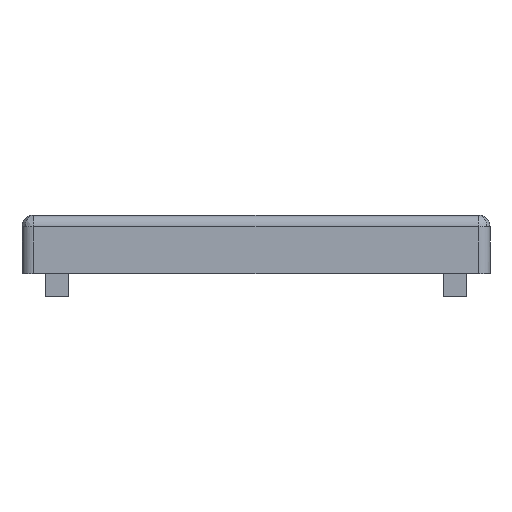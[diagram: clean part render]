
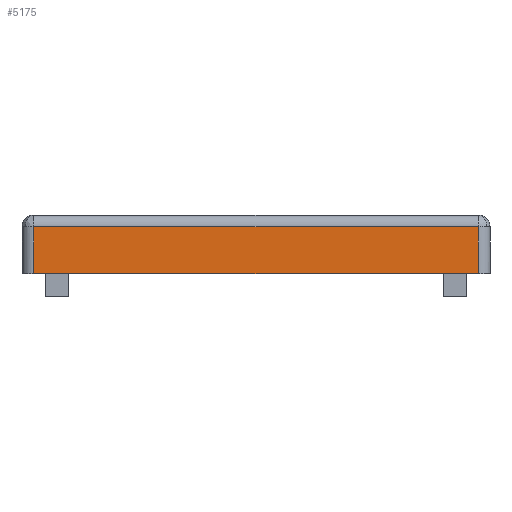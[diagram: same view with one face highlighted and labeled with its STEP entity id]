
A CAD part, front view. The second image highlights one B-rep face of the part: STEP entity #5175.
In plain terms, the highlighted planar face has unit normal (0, -1, 0).
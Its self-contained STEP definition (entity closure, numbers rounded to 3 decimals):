
#381 = ORIENTED_EDGE ( 'NONE', *, *, #5391, .T. ) ;
#507 = DIRECTION ( 'NONE',  ( 1., 0., 0. ) ) ;
#521 = CARTESIAN_POINT ( 'NONE',  ( -19.154, -40., 4. ) ) ;
#547 = DIRECTION ( 'NONE',  ( 0., 0., 1. ) ) ;
#640 = DIRECTION ( 'NONE',  ( 0., 0., -1. ) ) ;
#726 = EDGE_CURVE ( 'NONE', #1241, #2900, #6763, .T. ) ;
#1241 = VERTEX_POINT ( 'NONE', #2305 ) ;
#1350 = LINE ( 'NONE', #521, #5589 ) ;
#1355 = CARTESIAN_POINT ( 'NONE',  ( -19., -40., 4. ) ) ;
#2305 = CARTESIAN_POINT ( 'NONE',  ( -19., -40., 0. ) ) ;
#2403 = VERTEX_POINT ( 'NONE', #1355 ) ;
#2407 = VECTOR ( 'NONE', #640, 1000. ) ;
#2476 = ORIENTED_EDGE ( 'NONE', *, *, #3158, .F. ) ;
#2487 = CARTESIAN_POINT ( 'NONE',  ( -20., -40., 0. ) ) ;
#2580 = FACE_OUTER_BOUND ( 'NONE', #5271, .T. ) ;
#2869 = VECTOR ( 'NONE', #507, 1000. ) ;
#2900 = VERTEX_POINT ( 'NONE', #6229 ) ;
#3158 = EDGE_CURVE ( 'NONE', #2403, #6594, #1350, .T. ) ;
#3178 = CARTESIAN_POINT ( 'NONE',  ( 19., -40., 4. ) ) ;
#3588 = PLANE ( 'NONE',  #4036 ) ;
#3611 = DIRECTION ( 'NONE',  ( 0., 0., -1. ) ) ;
#4036 = AXIS2_PLACEMENT_3D ( 'NONE', #2487, #6938, #3611 ) ;
#4402 = CARTESIAN_POINT ( 'NONE',  ( 19., -40., 0. ) ) ;
#4863 = CARTESIAN_POINT ( 'NONE',  ( -20., -40., 0. ) ) ;
#5175 = ADVANCED_FACE ( 'NONE', ( #2580 ), #3588, .T. ) ;
#5189 = LINE ( 'NONE', #6148, #2407 ) ;
#5271 = EDGE_LOOP ( 'NONE', ( #381, #2476, #5499, #5856 ) ) ;
#5391 = EDGE_CURVE ( 'NONE', #2900, #6594, #6304, .T. ) ;
#5499 = ORIENTED_EDGE ( 'NONE', *, *, #6105, .T. ) ;
#5589 = VECTOR ( 'NONE', #7158, 1000. ) ;
#5856 = ORIENTED_EDGE ( 'NONE', *, *, #726, .T. ) ;
#6105 = EDGE_CURVE ( 'NONE', #2403, #1241, #5189, .T. ) ;
#6122 = VECTOR ( 'NONE', #547, 1000. ) ;
#6148 = CARTESIAN_POINT ( 'NONE',  ( -19., -40., 0. ) ) ;
#6229 = CARTESIAN_POINT ( 'NONE',  ( 19., -40., 0. ) ) ;
#6304 = LINE ( 'NONE', #4402, #6122 ) ;
#6594 = VERTEX_POINT ( 'NONE', #3178 ) ;
#6763 = LINE ( 'NONE', #4863, #2869 ) ;
#6938 = DIRECTION ( 'NONE',  ( 0., -1., 0. ) ) ;
#7158 = DIRECTION ( 'NONE',  ( 1., 0., 0. ) ) ;
